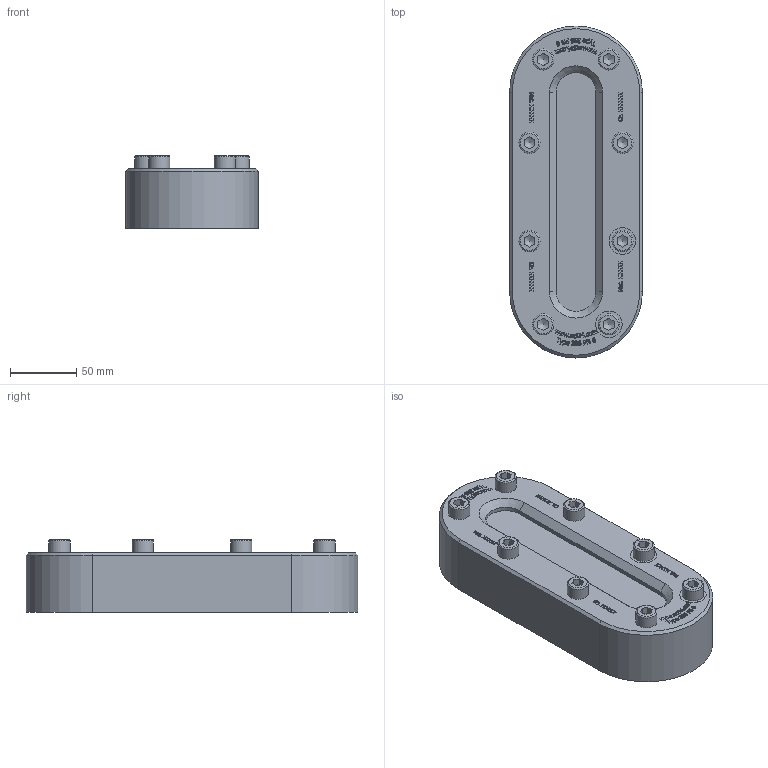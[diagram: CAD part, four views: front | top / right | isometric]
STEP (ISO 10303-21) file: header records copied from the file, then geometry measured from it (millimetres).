
FILE_DESCRIPTION(/* description */ (''),/* implementation_level */ '2;1');
FILE_NAME(/* name */ 'W:\Konstruktion_ACI\336\STEP\ACI-336-250.stp',/* time_stamp */ '2022-03-08T13:13:22+01:00',/* author */ ('Travnicek'),/* organization */ ('ACI Industriearmaturen'),/* preprocessor_version */ 'ST-DEVELOPER v16.1',/* originating_system */ 'Autodesk Inventor 2016',/* authorisation */ '');
FILE_SCHEMA (('AUTOMOTIVE_DESIGN { 1 0 10303 214 3 1 1 }'));
Length unit declared in the file: centimetre
Products named in the file (1): 336-ZB
Bounding box: 100 x 250 x 54.9 mm (x, y, z)
Volume: 889473.5 mm3; surface area: 87708.6 mm2
Topology: 1 solids, 1 shells, 1354 faces, 3702 edges, 2462 vertices
Faces by surface type: plane 882, bspline 436, cylinder 16, cone 12, torus 8
Full cylindrical faces by diameter (mm): 16 x8, 20 x2
Entity records: 45648 total; most frequent: CARTESIAN_POINT 13229, ORIENTED_EDGE 7324, DIRECTION 4624, EDGE_CURVE 3662, LINE 2698, VECTOR 2698, VERTEX_POINT 2448, EDGE_LOOP 1492
